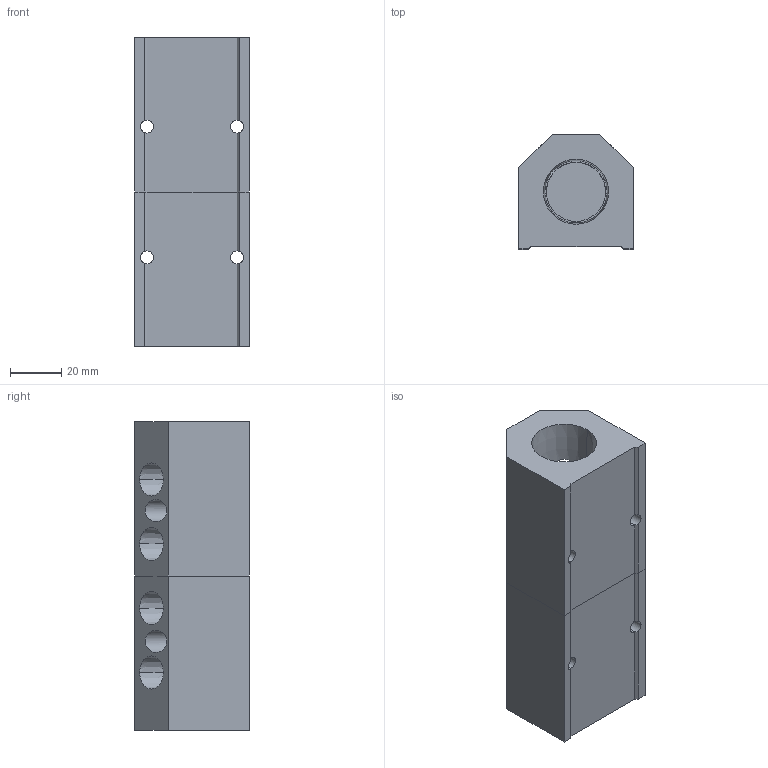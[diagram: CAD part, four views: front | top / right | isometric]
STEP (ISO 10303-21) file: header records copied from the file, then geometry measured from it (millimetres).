
FILE_DESCRIPTION (( 'STEP AP214' ), '1' );
FILE_NAME ('ALM4BD-N4N12-120RB.step', '2022-02-06T14:18:40', ( '' ), ( '' ), 'SwSTEP 2.0', 'SolidWorks 2020', '' );
FILE_SCHEMA (( 'AUTOMOTIVE_DESIGN' ));
Length unit declared in the file: millimetre
Products named in the file (1): ALM4BD-N4N12-120RB
Bounding box: 44.5 x 44.5 x 120 mm (x, y, z)
Volume: 147114.1 mm3; surface area: 39188.5 mm2
Topology: 2 solids, 2 shells, 357 faces, 947 edges, 626 vertices
Faces by surface type: plane 245, bspline 56, cone 28, cylinder 28
Entity records: 18904 total; most frequent: CARTESIAN_POINT 6999, ORIENTED_EDGE 1894, DIRECTION 1455, EDGE_CURVE 947, VECTOR 691, LINE 691, VERTEX_POINT 626, EDGE_LOOP 413
